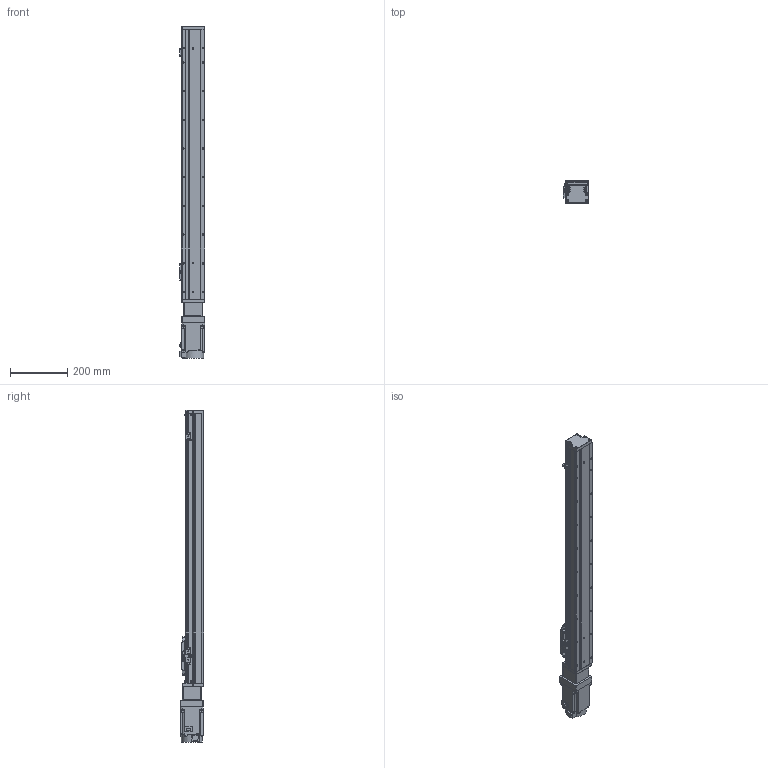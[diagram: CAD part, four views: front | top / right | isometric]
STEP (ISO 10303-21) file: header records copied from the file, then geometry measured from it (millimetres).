
FILE_DESCRIPTION (( 'STEP AP203' ), '1' );
FILE_NAME ('GTH8-750-BC-M75-C4.step', '2023-02-14T02:20:43', ( '微软用户' ), ( '微软中国' ), 'SwSTEP 2.0', 'SolidWorks 2020', '' );
FILE_SCHEMA (( 'CONFIG_CONTROL_DESIGN' ));
Length unit declared in the file: millimetre
Products named in the file (19): GTH80-006; GTH50-024; hg-kn73j_-s100; GTH80-013; GTH50-023; GTH8-750-BC-M75-C4; GBT 70.3-M3℅6; GBT96.1-2002 3×0.8; GTH80-022; GTH80-001_750; BTH-M3X5X6; GBT 70.1-M3℅6; GTH80-003; CTHA86-006-1_CTHA86-006-4; GBT 70.1-M4×16; CTHA86-013; GTH80-004; GTH80-028; CTHA86-027
Assembly tree (60 placements, depth 2):
  GTH8-750-BC-M75-C4
    GTH80-001_750
    GTH80-003
    GTH80-004
    GTH80-006
    GTH80-013
    GBT 70.3-M3℅6  x6
    GTH80-022
    GBT 70.1-M3℅6  x14
    GBT 70.1-M4×16  x8
    GTH80-028  x2
    GTH50-024  x3
    GTH50-023  x3
    GBT96.1-2002 3×0.8  x6
    BTH-M3X5X6  x8
    CTHA86-006-1_CTHA86-006-4
    CTHA86-013
    CTHA86-027
    hg-kn73j_-s100
Bounding box: 89.8 x 81.72 x 1157.2 mm (x, y, z)
Volume: 5295140.4 mm3; surface area: 527472 mm2
Topology: 62 solids, 62 shells, 2265 faces, 5222 edges, 3184 vertices
Faces by surface type: plane 1185, cylinder 623, cone 285, torus 162, sphere 8, bspline 2
Entity records: 39933 total; most frequent: DIRECTION 6587, CARTESIAN_POINT 6578, ORIENTED_EDGE 6034, EDGE_CURVE 3017, AXIS2_PLACEMENT_3D 2311, VECTOR 1965, LINE 1965, VERTEX_POINT 1897
